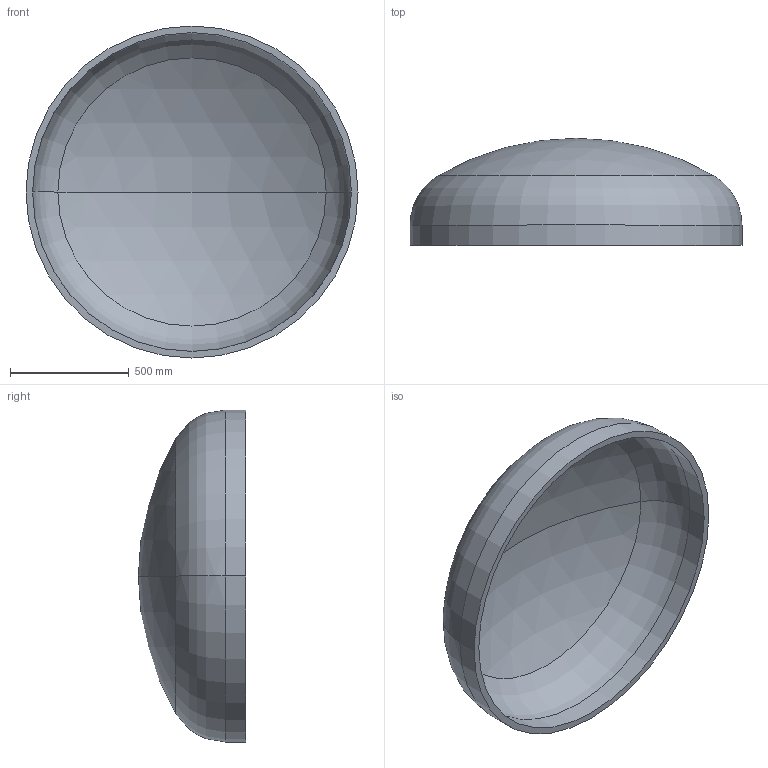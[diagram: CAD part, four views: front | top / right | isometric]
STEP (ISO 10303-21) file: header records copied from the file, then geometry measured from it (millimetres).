
FILE_DESCRIPTION (( 'STEP AP203' ), '1' );
FILE_NAME ('DIN 28013 Korbbogenform_-_Boden DIN 28013 - 1400 x 85 - I - s=28.step', '2016-07-01T10:13:32', ( '' ), ( '' ), 'SwSTEP 2.0', 'SolidWorks 2013', '' );
FILE_SCHEMA (( 'CONFIG_CONTROL_DESIGN' ));
Length unit declared in the file: millimetre
Products named in the file (1): DIN 28013 Korbbogenform_-_Boden DIN 28013 - 1400 x 85 - I - s=28
Bounding box: 1400 x 451.86 x 1400 mm (x, y, z)
Volume: 68371548.2 mm3; surface area: 5006009.9 mm2
Topology: 1 solids, 1 shells, 13 faces, 24 edges, 14 vertices
Faces by surface type: torus 4, cylinder 4, sphere 4, plane 1
Entity records: 407 total; most frequent: DIRECTION 72, CARTESIAN_POINT 52, ORIENTED_EDGE 48, AXIS2_PLACEMENT_3D 34, EDGE_CURVE 24, CIRCLE 20, EDGE_LOOP 14, VERTEX_POINT 14
